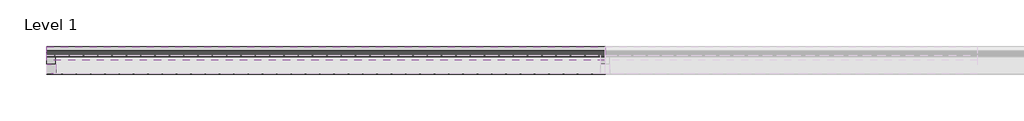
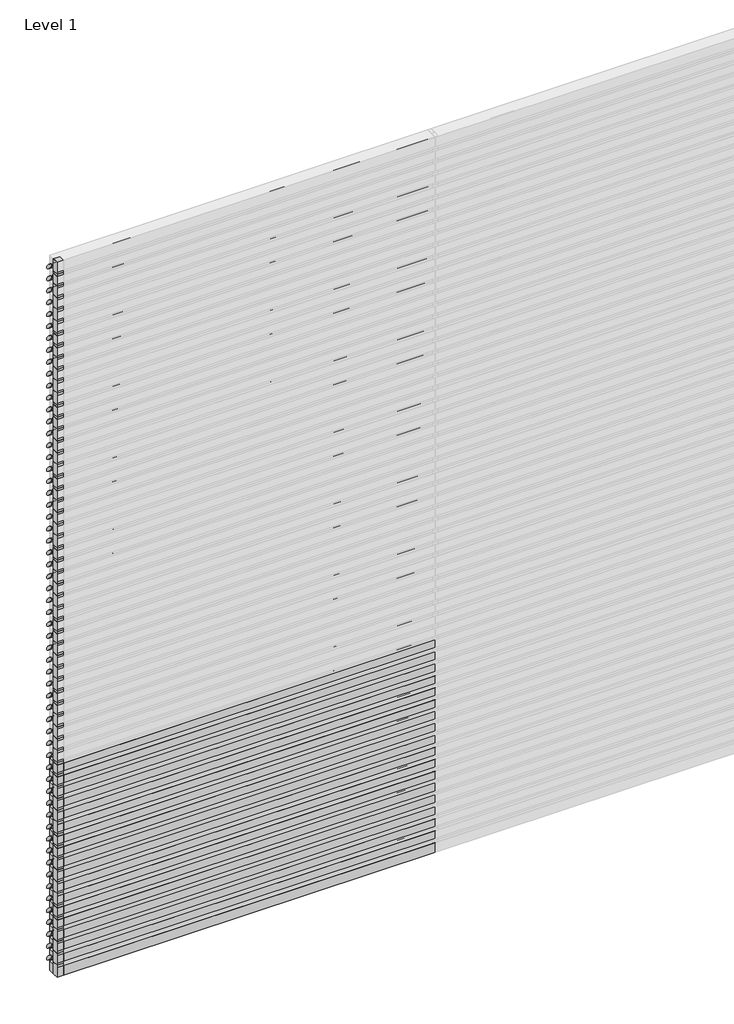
# One storey, part 1 of 4: 119 members, 18 plates.
"""IFC4 building model written with IfcOpenShell, lengths in millimetres."""

from ifc_helpers import new_model, si_unit, origin, place, context, project, spatial, transform, mapped, element, save
from components import rectangular_mullion_c274bac7, rectangular_mullion_cddbc660, empty_system_panel_empty_03c9d606, empty_system_panel_empty_9aeebe66

model = new_model("IFC4")

# Units and contexts
model_context = context("Model", 3, world=origin())
ifc_project = project(units=[si_unit("LENGTHUNIT", "METRE", prefix="MILLI")], contexts=[model_context])

# Site, building, storey
site = spatial("IfcSite", under=ifc_project)
building = spatial("IfcBuilding", under=site)
storey = spatial("IfcBuildingStorey", under=building, Name="Level 1", Elevation=0.0)

# Members
placement = place(None, origin())
rectangular_mullion_shape = rectangular_mullion_c274bac7(model_context)
element("IfcMember", 1, ObjectType="Rectangular Mullion : RSen_21_CWM_blade - 100 ellips - 45°_gen_duco projects", at=placement, inside=storey, context=model_context, shape_type="MappedRepresentation", body=[
    mapped(rectangular_mullion_shape, transform((0.0, 3000.0, 100.0), x_axis=(0.0, 0.0, 1.0), y_axis=(0.0, 1.0, 0.0), z_axis=(-1.0, 0.0, 0.0))),
])
element("IfcMember", 2, ObjectType="Rectangular Mullion : RSen_21_CWM_blade - 100 ellips - 45°_gen_duco projects", at=placement, inside=storey, context=model_context, shape_type="MappedRepresentation", body=[
    mapped(rectangular_mullion_shape, transform((0.0, 3000.0, 200.0), x_axis=(0.0, 0.0, 1.0), y_axis=(0.0, 1.0, 0.0), z_axis=(-1.0, 0.0, 0.0))),
])
element("IfcMember", 3, ObjectType="Rectangular Mullion : RSen_21_CWM_blade - 100 ellips - 45°_gen_duco projects", at=placement, inside=storey, context=model_context, shape_type="MappedRepresentation", body=[
    mapped(rectangular_mullion_shape, transform((0.0, 3000.0, 300.0), x_axis=(0.0, 0.0, 1.0), y_axis=(0.0, 1.0, 0.0), z_axis=(-1.0, 0.0, 0.0))),
])
element("IfcMember", 4, ObjectType="Rectangular Mullion : RSen_21_CWM_blade - 100 ellips - 45°_gen_duco projects", at=placement, inside=storey, context=model_context, shape_type="MappedRepresentation", body=[
    mapped(rectangular_mullion_shape, transform((0.0, 3000.0, 400.0), x_axis=(0.0, 0.0, 1.0), y_axis=(0.0, 1.0, 0.0), z_axis=(-1.0, 0.0, 0.0))),
])
element("IfcMember", 5, ObjectType="Rectangular Mullion : RSen_21_CWM_blade - 100 ellips - 45°_gen_duco projects", at=placement, inside=storey, context=model_context, shape_type="MappedRepresentation", body=[
    mapped(rectangular_mullion_shape, transform((0.0, 3000.0, 500.0), x_axis=(0.0, 0.0, 1.0), y_axis=(0.0, 1.0, 0.0), z_axis=(-1.0, 0.0, 0.0))),
])
element("IfcMember", 6, ObjectType="Rectangular Mullion : RSen_21_CWM_blade - 100 ellips - 45°_gen_duco projects", at=placement, inside=storey, context=model_context, shape_type="MappedRepresentation", body=[
    mapped(rectangular_mullion_shape, transform((0.0, 3000.0, 600.0), x_axis=(0.0, 0.0, 1.0), y_axis=(0.0, 1.0, 0.0), z_axis=(-1.0, 0.0, 0.0))),
])
element("IfcMember", 7, ObjectType="Rectangular Mullion : RSen_21_CWM_blade - 100 ellips - 45°_gen_duco projects", at=placement, inside=storey, context=model_context, shape_type="MappedRepresentation", body=[
    mapped(rectangular_mullion_shape, transform((0.0, 3000.0, 700.0), x_axis=(0.0, 0.0, 1.0), y_axis=(0.0, 1.0, 0.0), z_axis=(-1.0, 0.0, 0.0))),
])
element("IfcMember", 8, ObjectType="Rectangular Mullion : RSen_21_CWM_blade - 100 ellips - 45°_gen_duco projects", at=placement, inside=storey, context=model_context, shape_type="MappedRepresentation", body=[
    mapped(rectangular_mullion_shape, transform((0.0, 3000.0, 800.0), x_axis=(0.0, 0.0, 1.0), y_axis=(0.0, 1.0, 0.0), z_axis=(-1.0, 0.0, 0.0))),
])
element("IfcMember", 9, ObjectType="Rectangular Mullion : RSen_21_CWM_blade - 100 ellips - 45°_gen_duco projects", at=placement, inside=storey, context=model_context, shape_type="MappedRepresentation", body=[
    mapped(rectangular_mullion_shape, transform((0.0, 3000.0, 900.0), x_axis=(0.0, 0.0, 1.0), y_axis=(0.0, 1.0, 0.0), z_axis=(-1.0, 0.0, 0.0))),
])
element("IfcMember", 10, ObjectType="Rectangular Mullion : RSen_21_CWM_blade - 100 ellips - 45°_gen_duco projects", at=placement, inside=storey, context=model_context, shape_type="MappedRepresentation", body=[
    mapped(rectangular_mullion_shape, transform((0.0, 3000.0, 1000.0), x_axis=(0.0, 0.0, 1.0), y_axis=(0.0, 1.0, 0.0), z_axis=(-1.0, 0.0, 0.0))),
])
element("IfcMember", 11, ObjectType="Rectangular Mullion : RSen_21_CWM_blade - 100 ellips - 45°_gen_duco projects", at=placement, inside=storey, context=model_context, shape_type="MappedRepresentation", body=[
    mapped(rectangular_mullion_shape, transform((0.0, 3000.0, 1100.0), x_axis=(0.0, 0.0, 1.0), y_axis=(0.0, 1.0, 0.0), z_axis=(-1.0, 0.0, 0.0))),
])
element("IfcMember", 12, ObjectType="Rectangular Mullion : RSen_21_CWM_blade - 100 ellips - 45°_gen_duco projects", at=placement, inside=storey, context=model_context, shape_type="MappedRepresentation", body=[
    mapped(rectangular_mullion_shape, transform((0.0, 3000.0, 1200.0), x_axis=(0.0, 0.0, 1.0), y_axis=(0.0, 1.0, 0.0), z_axis=(-1.0, 0.0, 0.0))),
])
element("IfcMember", 13, ObjectType="Rectangular Mullion : RSen_21_CWM_blade - 100 ellips - 45°_gen_duco projects", at=placement, inside=storey, context=model_context, shape_type="MappedRepresentation", body=[
    mapped(rectangular_mullion_shape, transform((0.0, 3000.0, 1300.0), x_axis=(0.0, 0.0, 1.0), y_axis=(0.0, 1.0, 0.0), z_axis=(-1.0, 0.0, 0.0))),
])
element("IfcMember", 14, ObjectType="Rectangular Mullion : RSen_21_CWM_blade - 100 ellips - 45°_gen_duco projects", at=placement, inside=storey, context=model_context, shape_type="MappedRepresentation", body=[
    mapped(rectangular_mullion_shape, transform((0.0, 3000.0, 1400.0), x_axis=(0.0, 0.0, 1.0), y_axis=(0.0, 1.0, 0.0), z_axis=(-1.0, 0.0, 0.0))),
])
element("IfcMember", 15, ObjectType="Rectangular Mullion : RSen_21_CWM_blade - 100 ellips - 45°_gen_duco projects", at=placement, inside=storey, context=model_context, shape_type="MappedRepresentation", body=[
    mapped(rectangular_mullion_shape, transform((0.0, 3000.0, 1500.0), x_axis=(0.0, 0.0, 1.0), y_axis=(0.0, 1.0, 0.0), z_axis=(-1.0, 0.0, 0.0))),
])
element("IfcMember", 16, ObjectType="Rectangular Mullion : RSen_21_CWM_blade - 100 ellips - 45°_gen_duco projects", at=placement, inside=storey, context=model_context, shape_type="MappedRepresentation", body=[
    mapped(rectangular_mullion_shape, transform((0.0, 3000.0, 1600.0), x_axis=(0.0, 0.0, 1.0), y_axis=(0.0, 1.0, 0.0), z_axis=(-1.0, 0.0, 0.0))),
])
element("IfcMember", 17, ObjectType="Rectangular Mullion : RSen_21_CWM_blade - 100 ellips - 45°_gen_duco projects", at=placement, inside=storey, context=model_context, shape_type="MappedRepresentation", body=[
    mapped(rectangular_mullion_shape, transform((0.0, 3000.0, 1700.0), x_axis=(0.0, 0.0, 1.0), y_axis=(0.0, 1.0, 0.0), z_axis=(-1.0, 0.0, 0.0))),
])
element("IfcMember", 18, ObjectType="Rectangular Mullion : RSen_21_CWM_blade - 100 ellips - 45°_gen_duco projects", at=placement, inside=storey, context=model_context, shape_type="MappedRepresentation", body=[
    mapped(rectangular_mullion_shape, transform((0.0, 3000.0, 1800.0), x_axis=(0.0, 0.0, 1.0), y_axis=(0.0, 1.0, 0.0), z_axis=(-1.0, 0.0, 0.0))),
])
element("IfcMember", 19, ObjectType="Rectangular Mullion : RSen_21_CWM_blade - 100 ellips - 45°_gen_duco projects", at=placement, inside=storey, context=model_context, shape_type="MappedRepresentation", body=[
    mapped(rectangular_mullion_shape, transform((0.0, 3000.0, 1900.0), x_axis=(0.0, 0.0, 1.0), y_axis=(0.0, 1.0, 0.0), z_axis=(-1.0, 0.0, 0.0))),
])
element("IfcMember", 20, ObjectType="Rectangular Mullion : RSen_21_CWM_blade - 100 ellips - 45°_gen_duco projects", at=placement, inside=storey, context=model_context, shape_type="MappedRepresentation", body=[
    mapped(rectangular_mullion_shape, transform((0.0, 3000.0, 2000.0), x_axis=(0.0, 0.0, 1.0), y_axis=(0.0, 1.0, 0.0), z_axis=(-1.0, 0.0, 0.0))),
])
element("IfcMember", 21, ObjectType="Rectangular Mullion : RSen_21_CWM_blade - 100 ellips - 45°_gen_duco projects", at=placement, inside=storey, context=model_context, shape_type="MappedRepresentation", body=[
    mapped(rectangular_mullion_shape, transform((0.0, 3000.0, 2100.0), x_axis=(0.0, 0.0, 1.0), y_axis=(0.0, 1.0, 0.0), z_axis=(-1.0, 0.0, 0.0))),
])
element("IfcMember", 22, ObjectType="Rectangular Mullion : RSen_21_CWM_blade - 100 ellips - 45°_gen_duco projects", at=placement, inside=storey, context=model_context, shape_type="MappedRepresentation", body=[
    mapped(rectangular_mullion_shape, transform((0.0, 3000.0, 2200.0), x_axis=(0.0, 0.0, 1.0), y_axis=(0.0, 1.0, 0.0), z_axis=(-1.0, 0.0, 0.0))),
])
element("IfcMember", 23, ObjectType="Rectangular Mullion : RSen_21_CWM_blade - 100 ellips - 45°_gen_duco projects", at=placement, inside=storey, context=model_context, shape_type="MappedRepresentation", body=[
    mapped(rectangular_mullion_shape, transform((0.0, 3000.0, 2300.0), x_axis=(0.0, 0.0, 1.0), y_axis=(0.0, 1.0, 0.0), z_axis=(-1.0, 0.0, 0.0))),
])
element("IfcMember", 24, ObjectType="Rectangular Mullion : RSen_21_CWM_blade - 100 ellips - 45°_gen_duco projects", at=placement, inside=storey, context=model_context, shape_type="MappedRepresentation", body=[
    mapped(rectangular_mullion_shape, transform((0.0, 3000.0, 2400.0), x_axis=(0.0, 0.0, 1.0), y_axis=(0.0, 1.0, 0.0), z_axis=(-1.0, 0.0, 0.0))),
])
element("IfcMember", 25, ObjectType="Rectangular Mullion : RSen_21_CWM_blade - 100 ellips - 45°_gen_duco projects", at=placement, inside=storey, context=model_context, shape_type="MappedRepresentation", body=[
    mapped(rectangular_mullion_shape, transform((0.0, 3000.0, 2500.0), x_axis=(0.0, 0.0, 1.0), y_axis=(0.0, 1.0, 0.0), z_axis=(-1.0, 0.0, 0.0))),
])
element("IfcMember", 26, ObjectType="Rectangular Mullion : RSen_21_CWM_blade - 100 ellips - 45°_gen_duco projects", at=placement, inside=storey, context=model_context, shape_type="MappedRepresentation", body=[
    mapped(rectangular_mullion_shape, transform((0.0, 3000.0, 2600.0), x_axis=(0.0, 0.0, 1.0), y_axis=(0.0, 1.0, 0.0), z_axis=(-1.0, 0.0, 0.0))),
])
element("IfcMember", 27, ObjectType="Rectangular Mullion : RSen_21_CWM_blade - 100 ellips - 45°_gen_duco projects", at=placement, inside=storey, context=model_context, shape_type="MappedRepresentation", body=[
    mapped(rectangular_mullion_shape, transform((0.0, 3000.0, 2700.0), x_axis=(0.0, 0.0, 1.0), y_axis=(0.0, 1.0, 0.0), z_axis=(-1.0, 0.0, 0.0))),
])
element("IfcMember", 28, ObjectType="Rectangular Mullion : RSen_21_CWM_blade - 100 ellips - 45°_gen_duco projects", at=placement, inside=storey, context=model_context, shape_type="MappedRepresentation", body=[
    mapped(rectangular_mullion_shape, transform((0.0, 3000.0, 2800.0), x_axis=(0.0, 0.0, 1.0), y_axis=(0.0, 1.0, 0.0), z_axis=(-1.0, 0.0, 0.0))),
])
element("IfcMember", 29, ObjectType="Rectangular Mullion : RSen_21_CWM_blade - 100 ellips - 45°_gen_duco projects", at=placement, inside=storey, context=model_context, shape_type="MappedRepresentation", body=[
    mapped(rectangular_mullion_shape, transform((0.0, 3000.0, 2900.0), x_axis=(0.0, 0.0, 1.0), y_axis=(0.0, 1.0, 0.0), z_axis=(-1.0, 0.0, 0.0))),
])
element("IfcMember", 30, ObjectType="Rectangular Mullion : RSen_21_CWM_blade - 100 ellips - 45°_gen_duco projects", at=placement, inside=storey, context=model_context, shape_type="MappedRepresentation", body=[
    mapped(rectangular_mullion_shape, transform((0.0, 3000.0, 3000.0), x_axis=(0.0, 0.0, 1.0), y_axis=(0.0, 1.0, 0.0), z_axis=(-1.0, 0.0, 0.0))),
])
element("IfcMember", 31, ObjectType="Rectangular Mullion : RSen_21_CWM_blade - 100 ellips - 45°_gen_duco projects", at=placement, inside=storey, context=model_context, shape_type="MappedRepresentation", body=[
    mapped(rectangular_mullion_shape, transform((0.0, 3000.0, 3100.0), x_axis=(0.0, 0.0, 1.0), y_axis=(0.0, 1.0, 0.0), z_axis=(-1.0, 0.0, 0.0))),
])
element("IfcMember", 32, ObjectType="Rectangular Mullion : RSen_21_CWM_blade - 100 ellips - 45°_gen_duco projects", at=placement, inside=storey, context=model_context, shape_type="MappedRepresentation", body=[
    mapped(rectangular_mullion_shape, transform((0.0, 3000.0, 3200.0), x_axis=(0.0, 0.0, 1.0), y_axis=(0.0, 1.0, 0.0), z_axis=(-1.0, 0.0, 0.0))),
])
element("IfcMember", 33, ObjectType="Rectangular Mullion : RSen_21_CWM_blade - 100 ellips - 45°_gen_duco projects", at=placement, inside=storey, context=model_context, shape_type="MappedRepresentation", body=[
    mapped(rectangular_mullion_shape, transform((0.0, 3000.0, 3300.0), x_axis=(0.0, 0.0, 1.0), y_axis=(0.0, 1.0, 0.0), z_axis=(-1.0, 0.0, 0.0))),
])
element("IfcMember", 34, ObjectType="Rectangular Mullion : RSen_21_CWM_blade - 100 ellips - 45°_gen_duco projects", at=placement, inside=storey, context=model_context, shape_type="MappedRepresentation", body=[
    mapped(rectangular_mullion_shape, transform((0.0, 3000.0, 3400.0), x_axis=(0.0, 0.0, 1.0), y_axis=(0.0, 1.0, 0.0), z_axis=(-1.0, 0.0, 0.0))),
])
element("IfcMember", 35, ObjectType="Rectangular Mullion : RSen_21_CWM_blade - 100 ellips - 45°_gen_duco projects", at=placement, inside=storey, context=model_context, shape_type="MappedRepresentation", body=[
    mapped(rectangular_mullion_shape, transform((0.0, 3000.0, 3500.0), x_axis=(0.0, 0.0, 1.0), y_axis=(0.0, 1.0, 0.0), z_axis=(-1.0, 0.0, 0.0))),
])
element("IfcMember", 36, ObjectType="Rectangular Mullion : RSen_21_CWM_blade - 100 ellips - 45°_gen_duco projects", at=placement, inside=storey, context=model_context, shape_type="MappedRepresentation", body=[
    mapped(rectangular_mullion_shape, transform((0.0, 3000.0, 3600.0), x_axis=(0.0, 0.0, 1.0), y_axis=(0.0, 1.0, 0.0), z_axis=(-1.0, 0.0, 0.0))),
])
element("IfcMember", 37, ObjectType="Rectangular Mullion : RSen_21_CWM_blade - 100 ellips - 45°_gen_duco projects", at=placement, inside=storey, context=model_context, shape_type="MappedRepresentation", body=[
    mapped(rectangular_mullion_shape, transform((0.0, 3000.0, 3700.0), x_axis=(0.0, 0.0, 1.0), y_axis=(0.0, 1.0, 0.0), z_axis=(-1.0, 0.0, 0.0))),
])
element("IfcMember", 38, ObjectType="Rectangular Mullion : RSen_21_CWM_blade - 100 ellips - 45°_gen_duco projects", at=placement, inside=storey, context=model_context, shape_type="MappedRepresentation", body=[
    mapped(rectangular_mullion_shape, transform((0.0, 3000.0, 3800.0), x_axis=(0.0, 0.0, 1.0), y_axis=(0.0, 1.0, 0.0), z_axis=(-1.0, 0.0, 0.0))),
])
element("IfcMember", 39, ObjectType="Rectangular Mullion : RSen_21_CWM_blade - 100 ellips - 45°_gen_duco projects", at=placement, inside=storey, context=model_context, shape_type="MappedRepresentation", body=[
    mapped(rectangular_mullion_shape, transform((0.0, 3000.0, 3900.0), x_axis=(0.0, 0.0, 1.0), y_axis=(0.0, 1.0, 0.0), z_axis=(-1.0, 0.0, 0.0))),
])
element("IfcMember", 40, ObjectType="Rectangular Mullion : RSen_21_CWM_blade - 100 ellips - 45°_gen_duco projects", at=placement, inside=storey, context=model_context, shape_type="MappedRepresentation", body=[
    mapped(rectangular_mullion_shape, transform((0.0, 3000.0, 4000.0), x_axis=(0.0, 0.0, 1.0), y_axis=(0.0, 1.0, 0.0), z_axis=(-1.0, 0.0, 0.0))),
])
element("IfcMember", 41, ObjectType="Rectangular Mullion : RSen_21_CWM_blade - 100 ellips - 45°_gen_duco projects", at=placement, inside=storey, context=model_context, shape_type="MappedRepresentation", body=[
    mapped(rectangular_mullion_shape, transform((0.0, 3000.0, 4100.0), x_axis=(0.0, 0.0, 1.0), y_axis=(0.0, 1.0, 0.0), z_axis=(-1.0, 0.0, 0.0))),
])
element("IfcMember", 42, ObjectType="Rectangular Mullion : RSen_21_CWM_blade - 100 ellips - 45°_gen_duco projects", at=placement, inside=storey, context=model_context, shape_type="MappedRepresentation", body=[
    mapped(rectangular_mullion_shape, transform((0.0, 3000.0, 4200.0), x_axis=(0.0, 0.0, 1.0), y_axis=(0.0, 1.0, 0.0), z_axis=(-1.0, 0.0, 0.0))),
])
element("IfcMember", 43, ObjectType="Rectangular Mullion : RSen_21_CWM_blade - 100 ellips - 45°_gen_duco projects", at=placement, inside=storey, context=model_context, shape_type="MappedRepresentation", body=[
    mapped(rectangular_mullion_shape, transform((0.0, 3000.0, 4300.0), x_axis=(0.0, 0.0, 1.0), y_axis=(0.0, 1.0, 0.0), z_axis=(-1.0, 0.0, 0.0))),
])
element("IfcMember", 44, ObjectType="Rectangular Mullion : RSen_21_CWM_blade - 100 ellips - 45°_gen_duco projects", at=placement, inside=storey, context=model_context, shape_type="MappedRepresentation", body=[
    mapped(rectangular_mullion_shape, transform((0.0, 3000.0, 4400.0), x_axis=(0.0, 0.0, 1.0), y_axis=(0.0, 1.0, 0.0), z_axis=(-1.0, 0.0, 0.0))),
])
element("IfcMember", 45, ObjectType="Rectangular Mullion : RSen_21_CWM_blade - 100 ellips - 45°_gen_duco projects", at=placement, inside=storey, context=model_context, shape_type="MappedRepresentation", body=[
    mapped(rectangular_mullion_shape, transform((0.0, 3000.0, 4500.0), x_axis=(0.0, 0.0, 1.0), y_axis=(0.0, 1.0, 0.0), z_axis=(-1.0, 0.0, 0.0))),
])
element("IfcMember", 46, ObjectType="Rectangular Mullion : RSen_21_CWM_blade - 100 ellips - 45°_gen_duco projects", at=placement, inside=storey, context=model_context, shape_type="MappedRepresentation", body=[
    mapped(rectangular_mullion_shape, transform((0.0, 3000.0, 4600.0), x_axis=(0.0, 0.0, 1.0), y_axis=(0.0, 1.0, 0.0), z_axis=(-1.0, 0.0, 0.0))),
])
element("IfcMember", 47, ObjectType="Rectangular Mullion : RSen_21_CWM_blade - 100 ellips - 45°_gen_duco projects", at=placement, inside=storey, context=model_context, shape_type="MappedRepresentation", body=[
    mapped(rectangular_mullion_shape, transform((0.0, 3000.0, 4700.0), x_axis=(0.0, 0.0, 1.0), y_axis=(0.0, 1.0, 0.0), z_axis=(-1.0, 0.0, 0.0))),
])
element("IfcMember", 48, ObjectType="Rectangular Mullion : RSen_21_CWM_blade - 100 ellips - 45°_gen_duco projects", at=placement, inside=storey, context=model_context, shape_type="MappedRepresentation", body=[
    mapped(rectangular_mullion_shape, transform((0.0, 3000.0, 4800.0), x_axis=(0.0, 0.0, 1.0), y_axis=(0.0, 1.0, 0.0), z_axis=(-1.0, 0.0, 0.0))),
])
element("IfcMember", 49, ObjectType="Rectangular Mullion : RSen_21_CWM_blade - 100 ellips - 45°_gen_duco projects", at=placement, inside=storey, context=model_context, shape_type="MappedRepresentation", body=[
    mapped(rectangular_mullion_shape, transform((0.0, 3000.0, 4900.0), x_axis=(0.0, 0.0, 1.0), y_axis=(0.0, 1.0, 0.0), z_axis=(-1.0, 0.0, 0.0))),
])
element("IfcMember", 50, ObjectType="Rectangular Mullion : RSen_21_CWM_blade - 100 ellips - 45°_gen_duco projects", at=placement, inside=storey, context=model_context, shape_type="MappedRepresentation", body=[
    mapped(rectangular_mullion_shape, transform((0.0, 3000.0, 5000.0), x_axis=(0.0, 0.0, 1.0), y_axis=(0.0, 1.0, 0.0), z_axis=(-1.0, 0.0, 0.0))),
])
element("IfcMember", 51, ObjectType="Rectangular Mullion : RSen_21_CWM_blade - 100 ellips - 45°_gen_duco projects", at=placement, inside=storey, context=model_context, shape_type="MappedRepresentation", body=[
    mapped(rectangular_mullion_shape, transform((0.0, 3000.0, 5100.0), x_axis=(0.0, 0.0, 1.0), y_axis=(0.0, 1.0, 0.0), z_axis=(-1.0, 0.0, 0.0))),
])
element("IfcMember", 52, ObjectType="Rectangular Mullion : RSen_21_CWM_blade - 100 ellips - 45°_gen_duco projects", at=placement, inside=storey, context=model_context, shape_type="MappedRepresentation", body=[
    mapped(rectangular_mullion_shape, transform((0.0, 3000.0, 5200.0), x_axis=(0.0, 0.0, 1.0), y_axis=(0.0, 1.0, 0.0), z_axis=(-1.0, 0.0, 0.0))),
])
element("IfcMember", 53, ObjectType="Rectangular Mullion : RSen_21_CWM_blade - 100 ellips - 45°_gen_duco projects", at=placement, inside=storey, context=model_context, shape_type="MappedRepresentation", body=[
    mapped(rectangular_mullion_shape, transform((0.0, 3000.0, 5300.0), x_axis=(0.0, 0.0, 1.0), y_axis=(0.0, 1.0, 0.0), z_axis=(-1.0, 0.0, 0.0))),
])
element("IfcMember", 54, ObjectType="Rectangular Mullion : RSen_21_CWM_blade - 100 ellips - 45°_gen_duco projects", at=placement, inside=storey, context=model_context, shape_type="MappedRepresentation", body=[
    mapped(rectangular_mullion_shape, transform((0.0, 3000.0, 5400.0), x_axis=(0.0, 0.0, 1.0), y_axis=(0.0, 1.0, 0.0), z_axis=(-1.0, 0.0, 0.0))),
])
element("IfcMember", 55, ObjectType="Rectangular Mullion : RSen_21_CWM_blade - 100 ellips - 45°_gen_duco projects", at=placement, inside=storey, context=model_context, shape_type="MappedRepresentation", body=[
    mapped(rectangular_mullion_shape, transform((0.0, 3000.0, 5500.0), x_axis=(0.0, 0.0, 1.0), y_axis=(0.0, 1.0, 0.0), z_axis=(-1.0, 0.0, 0.0))),
])
element("IfcMember", 56, ObjectType="Rectangular Mullion : RSen_21_CWM_blade - 100 ellips - 45°_gen_duco projects", at=placement, inside=storey, context=model_context, shape_type="MappedRepresentation", body=[
    mapped(rectangular_mullion_shape, transform((0.0, 3000.0, 5600.0), x_axis=(0.0, 0.0, 1.0), y_axis=(0.0, 1.0, 0.0), z_axis=(-1.0, 0.0, 0.0))),
])
element("IfcMember", 57, ObjectType="Rectangular Mullion : RSen_21_CWM_blade - 100 ellips - 45°_gen_duco projects", at=placement, inside=storey, context=model_context, shape_type="MappedRepresentation", body=[
    mapped(rectangular_mullion_shape, transform((0.0, 3000.0, 5700.0), x_axis=(0.0, 0.0, 1.0), y_axis=(0.0, 1.0, 0.0), z_axis=(-1.0, 0.0, 0.0))),
])
element("IfcMember", 58, ObjectType="Rectangular Mullion : RSen_21_CWM_blade - 100 ellips - 45°_gen_duco projects", at=placement, inside=storey, context=model_context, shape_type="MappedRepresentation", body=[
    mapped(rectangular_mullion_shape, transform((0.0, 3000.0, 5800.0), x_axis=(0.0, 0.0, 1.0), y_axis=(0.0, 1.0, 0.0), z_axis=(-1.0, 0.0, 0.0))),
])
element("IfcMember", 59, ObjectType="Rectangular Mullion : RSen_21_CWM_blade - 100 ellips - 45°_gen_duco projects", at=placement, inside=storey, context=model_context, shape_type="MappedRepresentation", body=[
    mapped(rectangular_mullion_shape, transform((0.0, 3000.0, 5900.0), x_axis=(0.0, 0.0, 1.0), y_axis=(0.0, 1.0, 0.0), z_axis=(-1.0, 0.0, 0.0))),
])
rectangular_mullion_2_shape = rectangular_mullion_cddbc660(model_context)
element("IfcMember", 60, ObjectType="Rectangular Mullion : RSen_21_CWM_support profile 50x50 - left_gen_duco projects", at=placement, inside=storey, context=model_context, shape_type="MappedRepresentation", body=[
    mapped(rectangular_mullion_2_shape, transform((0.0, 3000.0, 0.0), x_axis=(-1.0, 0.0, 0.0), y_axis=(0.0, 1.0, 0.0), z_axis=(0.0, 0.0, -1.0))),
])
element("IfcMember", 61, ObjectType="Rectangular Mullion : RSen_21_CWM_support profile 50x50 - left_gen_duco projects", at=placement, inside=storey, context=model_context, shape_type="MappedRepresentation", body=[
    mapped(rectangular_mullion_2_shape, transform((0.0, 3000.0, 100.0), x_axis=(-1.0, 0.0, 0.0), y_axis=(0.0, 1.0, 0.0), z_axis=(0.0, 0.0, -1.0))),
])
element("IfcMember", 62, ObjectType="Rectangular Mullion : RSen_21_CWM_support profile 50x50 - left_gen_duco projects", at=placement, inside=storey, context=model_context, shape_type="MappedRepresentation", body=[
    mapped(rectangular_mullion_2_shape, transform((0.0, 3000.0, 200.0), x_axis=(-1.0, 0.0, 0.0), y_axis=(0.0, 1.0, 0.0), z_axis=(0.0, 0.0, -1.0))),
])
element("IfcMember", 63, ObjectType="Rectangular Mullion : RSen_21_CWM_support profile 50x50 - left_gen_duco projects", at=placement, inside=storey, context=model_context, shape_type="MappedRepresentation", body=[
    mapped(rectangular_mullion_2_shape, transform((0.0, 3000.0, 300.0), x_axis=(-1.0, 0.0, 0.0), y_axis=(0.0, 1.0, 0.0), z_axis=(0.0, 0.0, -1.0))),
])
element("IfcMember", 64, ObjectType="Rectangular Mullion : RSen_21_CWM_support profile 50x50 - left_gen_duco projects", at=placement, inside=storey, context=model_context, shape_type="MappedRepresentation", body=[
    mapped(rectangular_mullion_2_shape, transform((0.0, 3000.0, 400.0), x_axis=(-1.0, 0.0, 0.0), y_axis=(0.0, 1.0, 0.0), z_axis=(0.0, 0.0, -1.0))),
])
element("IfcMember", 65, ObjectType="Rectangular Mullion : RSen_21_CWM_support profile 50x50 - left_gen_duco projects", at=placement, inside=storey, context=model_context, shape_type="MappedRepresentation", body=[
    mapped(rectangular_mullion_2_shape, transform((0.0, 3000.0, 500.0), x_axis=(-1.0, 0.0, 0.0), y_axis=(0.0, 1.0, 0.0), z_axis=(0.0, 0.0, -1.0))),
])
element("IfcMember", 66, ObjectType="Rectangular Mullion : RSen_21_CWM_support profile 50x50 - left_gen_duco projects", at=placement, inside=storey, context=model_context, shape_type="MappedRepresentation", body=[
    mapped(rectangular_mullion_2_shape, transform((0.0, 3000.0, 600.0), x_axis=(-1.0, 0.0, 0.0), y_axis=(0.0, 1.0, 0.0), z_axis=(0.0, 0.0, -1.0))),
])
element("IfcMember", 67, ObjectType="Rectangular Mullion : RSen_21_CWM_support profile 50x50 - left_gen_duco projects", at=placement, inside=storey, context=model_context, shape_type="MappedRepresentation", body=[
    mapped(rectangular_mullion_2_shape, transform((0.0, 3000.0, 700.0), x_axis=(-1.0, 0.0, 0.0), y_axis=(0.0, 1.0, 0.0), z_axis=(0.0, 0.0, -1.0))),
])
element("IfcMember", 68, ObjectType="Rectangular Mullion : RSen_21_CWM_support profile 50x50 - left_gen_duco projects", at=placement, inside=storey, context=model_context, shape_type="MappedRepresentation", body=[
    mapped(rectangular_mullion_2_shape, transform((0.0, 3000.0, 800.0), x_axis=(-1.0, 0.0, 0.0), y_axis=(0.0, 1.0, 0.0), z_axis=(0.0, 0.0, -1.0))),
])
element("IfcMember", 69, ObjectType="Rectangular Mullion : RSen_21_CWM_support profile 50x50 - left_gen_duco projects", at=placement, inside=storey, context=model_context, shape_type="MappedRepresentation", body=[
    mapped(rectangular_mullion_2_shape, transform((0.0, 3000.0, 900.0), x_axis=(-1.0, 0.0, 0.0), y_axis=(0.0, 1.0, 0.0), z_axis=(0.0, 0.0, -1.0))),
])
element("IfcMember", 70, ObjectType="Rectangular Mullion : RSen_21_CWM_support profile 50x50 - left_gen_duco projects", at=placement, inside=storey, context=model_context, shape_type="MappedRepresentation", body=[
    mapped(rectangular_mullion_2_shape, transform((0.0, 3000.0, 1000.0), x_axis=(-1.0, 0.0, 0.0), y_axis=(0.0, 1.0, 0.0), z_axis=(0.0, 0.0, -1.0))),
])
element("IfcMember", 71, ObjectType="Rectangular Mullion : RSen_21_CWM_support profile 50x50 - left_gen_duco projects", at=placement, inside=storey, context=model_context, shape_type="MappedRepresentation", body=[
    mapped(rectangular_mullion_2_shape, transform((0.0, 3000.0, 1100.0), x_axis=(-1.0, 0.0, 0.0), y_axis=(0.0, 1.0, 0.0), z_axis=(0.0, 0.0, -1.0))),
])
element("IfcMember", 72, ObjectType="Rectangular Mullion : RSen_21_CWM_support profile 50x50 - left_gen_duco projects", at=placement, inside=storey, context=model_context, shape_type="MappedRepresentation", body=[
    mapped(rectangular_mullion_2_shape, transform((0.0, 3000.0, 1200.0), x_axis=(-1.0, 0.0, 0.0), y_axis=(0.0, 1.0, 0.0), z_axis=(0.0, 0.0, -1.0))),
])
element("IfcMember", 73, ObjectType="Rectangular Mullion : RSen_21_CWM_support profile 50x50 - left_gen_duco projects", at=placement, inside=storey, context=model_context, shape_type="MappedRepresentation", body=[
    mapped(rectangular_mullion_2_shape, transform((0.0, 3000.0, 1300.0), x_axis=(-1.0, 0.0, 0.0), y_axis=(0.0, 1.0, 0.0), z_axis=(0.0, 0.0, -1.0))),
])
element("IfcMember", 74, ObjectType="Rectangular Mullion : RSen_21_CWM_support profile 50x50 - left_gen_duco projects", at=placement, inside=storey, context=model_context, shape_type="MappedRepresentation", body=[
    mapped(rectangular_mullion_2_shape, transform((0.0, 3000.0, 1400.0), x_axis=(-1.0, 0.0, 0.0), y_axis=(0.0, 1.0, 0.0), z_axis=(0.0, 0.0, -1.0))),
])
element("IfcMember", 75, ObjectType="Rectangular Mullion : RSen_21_CWM_support profile 50x50 - left_gen_duco projects", at=placement, inside=storey, context=model_context, shape_type="MappedRepresentation", body=[
    mapped(rectangular_mullion_2_shape, transform((0.0, 3000.0, 1500.0), x_axis=(-1.0, 0.0, 0.0), y_axis=(0.0, 1.0, 0.0), z_axis=(0.0, 0.0, -1.0))),
])
element("IfcMember", 76, ObjectType="Rectangular Mullion : RSen_21_CWM_support profile 50x50 - left_gen_duco projects", at=placement, inside=storey, context=model_context, shape_type="MappedRepresentation", body=[
    mapped(rectangular_mullion_2_shape, transform((0.0, 3000.0, 1600.0), x_axis=(-1.0, 0.0, 0.0), y_axis=(0.0, 1.0, 0.0), z_axis=(0.0, 0.0, -1.0))),
])
element("IfcMember", 77, ObjectType="Rectangular Mullion : RSen_21_CWM_support profile 50x50 - left_gen_duco projects", at=placement, inside=storey, context=model_context, shape_type="MappedRepresentation", body=[
    mapped(rectangular_mullion_2_shape, transform((0.0, 3000.0, 1700.0), x_axis=(-1.0, 0.0, 0.0), y_axis=(0.0, 1.0, 0.0), z_axis=(0.0, 0.0, -1.0))),
])
element("IfcMember", 78, ObjectType="Rectangular Mullion : RSen_21_CWM_support profile 50x50 - left_gen_duco projects", at=placement, inside=storey, context=model_context, shape_type="MappedRepresentation", body=[
    mapped(rectangular_mullion_2_shape, transform((0.0, 3000.0, 1800.0), x_axis=(-1.0, 0.0, 0.0), y_axis=(0.0, 1.0, 0.0), z_axis=(0.0, 0.0, -1.0))),
])
element("IfcMember", 79, ObjectType="Rectangular Mullion : RSen_21_CWM_support profile 50x50 - left_gen_duco projects", at=placement, inside=storey, context=model_context, shape_type="MappedRepresentation", body=[
    mapped(rectangular_mullion_2_shape, transform((0.0, 3000.0, 1900.0), x_axis=(-1.0, 0.0, 0.0), y_axis=(0.0, 1.0, 0.0), z_axis=(0.0, 0.0, -1.0))),
])
element("IfcMember", 80, ObjectType="Rectangular Mullion : RSen_21_CWM_support profile 50x50 - left_gen_duco projects", at=placement, inside=storey, context=model_context, shape_type="MappedRepresentation", body=[
    mapped(rectangular_mullion_2_shape, transform((0.0, 3000.0, 2000.0), x_axis=(-1.0, 0.0, 0.0), y_axis=(0.0, 1.0, 0.0), z_axis=(0.0, 0.0, -1.0))),
])
element("IfcMember", 81, ObjectType="Rectangular Mullion : RSen_21_CWM_support profile 50x50 - left_gen_duco projects", at=placement, inside=storey, context=model_context, shape_type="MappedRepresentation", body=[
    mapped(rectangular_mullion_2_shape, transform((0.0, 3000.0, 2100.0), x_axis=(-1.0, 0.0, 0.0), y_axis=(0.0, 1.0, 0.0), z_axis=(0.0, 0.0, -1.0))),
])
element("IfcMember", 82, ObjectType="Rectangular Mullion : RSen_21_CWM_support profile 50x50 - left_gen_duco projects", at=placement, inside=storey, context=model_context, shape_type="MappedRepresentation", body=[
    mapped(rectangular_mullion_2_shape, transform((0.0, 3000.0, 2200.0), x_axis=(-1.0, 0.0, 0.0), y_axis=(0.0, 1.0, 0.0), z_axis=(0.0, 0.0, -1.0))),
])
element("IfcMember", 83, ObjectType="Rectangular Mullion : RSen_21_CWM_support profile 50x50 - left_gen_duco projects", at=placement, inside=storey, context=model_context, shape_type="MappedRepresentation", body=[
    mapped(rectangular_mullion_2_shape, transform((0.0, 3000.0, 2300.0), x_axis=(-1.0, 0.0, 0.0), y_axis=(0.0, 1.0, 0.0), z_axis=(0.0, 0.0, -1.0))),
])
element("IfcMember", 84, ObjectType="Rectangular Mullion : RSen_21_CWM_support profile 50x50 - left_gen_duco projects", at=placement, inside=storey, context=model_context, shape_type="MappedRepresentation", body=[
    mapped(rectangular_mullion_2_shape, transform((0.0, 3000.0, 2400.0), x_axis=(-1.0, 0.0, 0.0), y_axis=(0.0, 1.0, 0.0), z_axis=(0.0, 0.0, -1.0))),
])
element("IfcMember", 85, ObjectType="Rectangular Mullion : RSen_21_CWM_support profile 50x50 - left_gen_duco projects", at=placement, inside=storey, context=model_context, shape_type="MappedRepresentation", body=[
    mapped(rectangular_mullion_2_shape, transform((0.0, 3000.0, 2500.0), x_axis=(-1.0, 0.0, 0.0), y_axis=(0.0, 1.0, 0.0), z_axis=(0.0, 0.0, -1.0))),
])
element("IfcMember", 86, ObjectType="Rectangular Mullion : RSen_21_CWM_support profile 50x50 - left_gen_duco projects", at=placement, inside=storey, context=model_context, shape_type="MappedRepresentation", body=[
    mapped(rectangular_mullion_2_shape, transform((0.0, 3000.0, 2600.0), x_axis=(-1.0, 0.0, 0.0), y_axis=(0.0, 1.0, 0.0), z_axis=(0.0, 0.0, -1.0))),
])
element("IfcMember", 87, ObjectType="Rectangular Mullion : RSen_21_CWM_support profile 50x50 - left_gen_duco projects", at=placement, inside=storey, context=model_context, shape_type="MappedRepresentation", body=[
    mapped(rectangular_mullion_2_shape, transform((0.0, 3000.0, 2700.0), x_axis=(-1.0, 0.0, 0.0), y_axis=(0.0, 1.0, 0.0), z_axis=(0.0, 0.0, -1.0))),
])
element("IfcMember", 88, ObjectType="Rectangular Mullion : RSen_21_CWM_support profile 50x50 - left_gen_duco projects", at=placement, inside=storey, context=model_context, shape_type="MappedRepresentation", body=[
    mapped(rectangular_mullion_2_shape, transform((0.0, 3000.0, 2800.0), x_axis=(-1.0, 0.0, 0.0), y_axis=(0.0, 1.0, 0.0), z_axis=(0.0, 0.0, -1.0))),
])
element("IfcMember", 89, ObjectType="Rectangular Mullion : RSen_21_CWM_support profile 50x50 - left_gen_duco projects", at=placement, inside=storey, context=model_context, shape_type="MappedRepresentation", body=[
    mapped(rectangular_mullion_2_shape, transform((0.0, 3000.0, 2900.0), x_axis=(-1.0, 0.0, 0.0), y_axis=(0.0, 1.0, 0.0), z_axis=(0.0, 0.0, -1.0))),
])
element("IfcMember", 90, ObjectType="Rectangular Mullion : RSen_21_CWM_support profile 50x50 - left_gen_duco projects", at=placement, inside=storey, context=model_context, shape_type="MappedRepresentation", body=[
    mapped(rectangular_mullion_2_shape, transform((0.0, 3000.0, 3000.0), x_axis=(-1.0, 0.0, 0.0), y_axis=(0.0, 1.0, 0.0), z_axis=(0.0, 0.0, -1.0))),
])
element("IfcMember", 91, ObjectType="Rectangular Mullion : RSen_21_CWM_support profile 50x50 - left_gen_duco projects", at=placement, inside=storey, context=model_context, shape_type="MappedRepresentation", body=[
    mapped(rectangular_mullion_2_shape, transform((0.0, 3000.0, 3100.0), x_axis=(-1.0, 0.0, 0.0), y_axis=(0.0, 1.0, 0.0), z_axis=(0.0, 0.0, -1.0))),
])
element("IfcMember", 92, ObjectType="Rectangular Mullion : RSen_21_CWM_support profile 50x50 - left_gen_duco projects", at=placement, inside=storey, context=model_context, shape_type="MappedRepresentation", body=[
    mapped(rectangular_mullion_2_shape, transform((0.0, 3000.0, 3200.0), x_axis=(-1.0, 0.0, 0.0), y_axis=(0.0, 1.0, 0.0), z_axis=(0.0, 0.0, -1.0))),
])
element("IfcMember", 93, ObjectType="Rectangular Mullion : RSen_21_CWM_support profile 50x50 - left_gen_duco projects", at=placement, inside=storey, context=model_context, shape_type="MappedRepresentation", body=[
    mapped(rectangular_mullion_2_shape, transform((0.0, 3000.0, 3300.0), x_axis=(-1.0, 0.0, 0.0), y_axis=(0.0, 1.0, 0.0), z_axis=(0.0, 0.0, -1.0))),
])
element("IfcMember", 94, ObjectType="Rectangular Mullion : RSen_21_CWM_support profile 50x50 - left_gen_duco projects", at=placement, inside=storey, context=model_context, shape_type="MappedRepresentation", body=[
    mapped(rectangular_mullion_2_shape, transform((0.0, 3000.0, 3400.0), x_axis=(-1.0, 0.0, 0.0), y_axis=(0.0, 1.0, 0.0), z_axis=(0.0, 0.0, -1.0))),
])
element("IfcMember", 95, ObjectType="Rectangular Mullion : RSen_21_CWM_support profile 50x50 - left_gen_duco projects", at=placement, inside=storey, context=model_context, shape_type="MappedRepresentation", body=[
    mapped(rectangular_mullion_2_shape, transform((0.0, 3000.0, 3500.0), x_axis=(-1.0, 0.0, 0.0), y_axis=(0.0, 1.0, 0.0), z_axis=(0.0, 0.0, -1.0))),
])
element("IfcMember", 96, ObjectType="Rectangular Mullion : RSen_21_CWM_support profile 50x50 - left_gen_duco projects", at=placement, inside=storey, context=model_context, shape_type="MappedRepresentation", body=[
    mapped(rectangular_mullion_2_shape, transform((0.0, 3000.0, 3600.0), x_axis=(-1.0, 0.0, 0.0), y_axis=(0.0, 1.0, 0.0), z_axis=(0.0, 0.0, -1.0))),
])
element("IfcMember", 97, ObjectType="Rectangular Mullion : RSen_21_CWM_support profile 50x50 - left_gen_duco projects", at=placement, inside=storey, context=model_context, shape_type="MappedRepresentation", body=[
    mapped(rectangular_mullion_2_shape, transform((0.0, 3000.0, 3700.0), x_axis=(-1.0, 0.0, 0.0), y_axis=(0.0, 1.0, 0.0), z_axis=(0.0, 0.0, -1.0))),
])
element("IfcMember", 98, ObjectType="Rectangular Mullion : RSen_21_CWM_support profile 50x50 - left_gen_duco projects", at=placement, inside=storey, context=model_context, shape_type="MappedRepresentation", body=[
    mapped(rectangular_mullion_2_shape, transform((0.0, 3000.0, 3800.0), x_axis=(-1.0, 0.0, 0.0), y_axis=(0.0, 1.0, 0.0), z_axis=(0.0, 0.0, -1.0))),
])
element("IfcMember", 99, ObjectType="Rectangular Mullion : RSen_21_CWM_support profile 50x50 - left_gen_duco projects", at=placement, inside=storey, context=model_context, shape_type="MappedRepresentation", body=[
    mapped(rectangular_mullion_2_shape, transform((0.0, 3000.0, 3900.0), x_axis=(-1.0, 0.0, 0.0), y_axis=(0.0, 1.0, 0.0), z_axis=(0.0, 0.0, -1.0))),
])
element("IfcMember", 100, ObjectType="Rectangular Mullion : RSen_21_CWM_support profile 50x50 - left_gen_duco projects", at=placement, inside=storey, context=model_context, shape_type="MappedRepresentation", body=[
    mapped(rectangular_mullion_2_shape, transform((0.0, 3000.0, 4000.0), x_axis=(-1.0, 0.0, 0.0), y_axis=(0.0, 1.0, 0.0), z_axis=(0.0, 0.0, -1.0))),
])
element("IfcMember", 101, ObjectType="Rectangular Mullion : RSen_21_CWM_support profile 50x50 - left_gen_duco projects", at=placement, inside=storey, context=model_context, shape_type="MappedRepresentation", body=[
    mapped(rectangular_mullion_2_shape, transform((0.0, 3000.0, 4100.0), x_axis=(-1.0, 0.0, 0.0), y_axis=(0.0, 1.0, 0.0), z_axis=(0.0, 0.0, -1.0))),
])
element("IfcMember", 102, ObjectType="Rectangular Mullion : RSen_21_CWM_support profile 50x50 - left_gen_duco projects", at=placement, inside=storey, context=model_context, shape_type="MappedRepresentation", body=[
    mapped(rectangular_mullion_2_shape, transform((0.0, 3000.0, 4200.0), x_axis=(-1.0, 0.0, 0.0), y_axis=(0.0, 1.0, 0.0), z_axis=(0.0, 0.0, -1.0))),
])
element("IfcMember", 103, ObjectType="Rectangular Mullion : RSen_21_CWM_support profile 50x50 - left_gen_duco projects", at=placement, inside=storey, context=model_context, shape_type="MappedRepresentation", body=[
    mapped(rectangular_mullion_2_shape, transform((0.0, 3000.0, 4300.0), x_axis=(-1.0, 0.0, 0.0), y_axis=(0.0, 1.0, 0.0), z_axis=(0.0, 0.0, -1.0))),
])
element("IfcMember", 104, ObjectType="Rectangular Mullion : RSen_21_CWM_support profile 50x50 - left_gen_duco projects", at=placement, inside=storey, context=model_context, shape_type="MappedRepresentation", body=[
    mapped(rectangular_mullion_2_shape, transform((0.0, 3000.0, 4400.0), x_axis=(-1.0, 0.0, 0.0), y_axis=(0.0, 1.0, 0.0), z_axis=(0.0, 0.0, -1.0))),
])
element("IfcMember", 105, ObjectType="Rectangular Mullion : RSen_21_CWM_support profile 50x50 - left_gen_duco projects", at=placement, inside=storey, context=model_context, shape_type="MappedRepresentation", body=[
    mapped(rectangular_mullion_2_shape, transform((0.0, 3000.0, 4500.0), x_axis=(-1.0, 0.0, 0.0), y_axis=(0.0, 1.0, 0.0), z_axis=(0.0, 0.0, -1.0))),
])
element("IfcMember", 106, ObjectType="Rectangular Mullion : RSen_21_CWM_support profile 50x50 - left_gen_duco projects", at=placement, inside=storey, context=model_context, shape_type="MappedRepresentation", body=[
    mapped(rectangular_mullion_2_shape, transform((0.0, 3000.0, 4600.0), x_axis=(-1.0, 0.0, 0.0), y_axis=(0.0, 1.0, 0.0), z_axis=(0.0, 0.0, -1.0))),
])
element("IfcMember", 107, ObjectType="Rectangular Mullion : RSen_21_CWM_support profile 50x50 - left_gen_duco projects", at=placement, inside=storey, context=model_context, shape_type="MappedRepresentation", body=[
    mapped(rectangular_mullion_2_shape, transform((0.0, 3000.0, 4700.0), x_axis=(-1.0, 0.0, 0.0), y_axis=(0.0, 1.0, 0.0), z_axis=(0.0, 0.0, -1.0))),
])
element("IfcMember", 108, ObjectType="Rectangular Mullion : RSen_21_CWM_support profile 50x50 - left_gen_duco projects", at=placement, inside=storey, context=model_context, shape_type="MappedRepresentation", body=[
    mapped(rectangular_mullion_2_shape, transform((0.0, 3000.0, 4800.0), x_axis=(-1.0, 0.0, 0.0), y_axis=(0.0, 1.0, 0.0), z_axis=(0.0, 0.0, -1.0))),
])
element("IfcMember", 109, ObjectType="Rectangular Mullion : RSen_21_CWM_support profile 50x50 - left_gen_duco projects", at=placement, inside=storey, context=model_context, shape_type="MappedRepresentation", body=[
    mapped(rectangular_mullion_2_shape, transform((0.0, 3000.0, 4900.0), x_axis=(-1.0, 0.0, 0.0), y_axis=(0.0, 1.0, 0.0), z_axis=(0.0, 0.0, -1.0))),
])
element("IfcMember", 110, ObjectType="Rectangular Mullion : RSen_21_CWM_support profile 50x50 - left_gen_duco projects", at=placement, inside=storey, context=model_context, shape_type="MappedRepresentation", body=[
    mapped(rectangular_mullion_2_shape, transform((0.0, 3000.0, 5000.0), x_axis=(-1.0, 0.0, 0.0), y_axis=(0.0, 1.0, 0.0), z_axis=(0.0, 0.0, -1.0))),
])
element("IfcMember", 111, ObjectType="Rectangular Mullion : RSen_21_CWM_support profile 50x50 - left_gen_duco projects", at=placement, inside=storey, context=model_context, shape_type="MappedRepresentation", body=[
    mapped(rectangular_mullion_2_shape, transform((0.0, 3000.0, 5100.0), x_axis=(-1.0, 0.0, 0.0), y_axis=(0.0, 1.0, 0.0), z_axis=(0.0, 0.0, -1.0))),
])
element("IfcMember", 112, ObjectType="Rectangular Mullion : RSen_21_CWM_support profile 50x50 - left_gen_duco projects", at=placement, inside=storey, context=model_context, shape_type="MappedRepresentation", body=[
    mapped(rectangular_mullion_2_shape, transform((0.0, 3000.0, 5200.0), x_axis=(-1.0, 0.0, 0.0), y_axis=(0.0, 1.0, 0.0), z_axis=(0.0, 0.0, -1.0))),
])
element("IfcMember", 113, ObjectType="Rectangular Mullion : RSen_21_CWM_support profile 50x50 - left_gen_duco projects", at=placement, inside=storey, context=model_context, shape_type="MappedRepresentation", body=[
    mapped(rectangular_mullion_2_shape, transform((0.0, 3000.0, 5300.0), x_axis=(-1.0, 0.0, 0.0), y_axis=(0.0, 1.0, 0.0), z_axis=(0.0, 0.0, -1.0))),
])
element("IfcMember", 114, ObjectType="Rectangular Mullion : RSen_21_CWM_support profile 50x50 - left_gen_duco projects", at=placement, inside=storey, context=model_context, shape_type="MappedRepresentation", body=[
    mapped(rectangular_mullion_2_shape, transform((0.0, 3000.0, 5400.0), x_axis=(-1.0, 0.0, 0.0), y_axis=(0.0, 1.0, 0.0), z_axis=(0.0, 0.0, -1.0))),
])
element("IfcMember", 115, ObjectType="Rectangular Mullion : RSen_21_CWM_support profile 50x50 - left_gen_duco projects", at=placement, inside=storey, context=model_context, shape_type="MappedRepresentation", body=[
    mapped(rectangular_mullion_2_shape, transform((0.0, 3000.0, 5500.0), x_axis=(-1.0, 0.0, 0.0), y_axis=(0.0, 1.0, 0.0), z_axis=(0.0, 0.0, -1.0))),
])
element("IfcMember", 116, ObjectType="Rectangular Mullion : RSen_21_CWM_support profile 50x50 - left_gen_duco projects", at=placement, inside=storey, context=model_context, shape_type="MappedRepresentation", body=[
    mapped(rectangular_mullion_2_shape, transform((0.0, 3000.0, 5600.0), x_axis=(-1.0, 0.0, 0.0), y_axis=(0.0, 1.0, 0.0), z_axis=(0.0, 0.0, -1.0))),
])
element("IfcMember", 117, ObjectType="Rectangular Mullion : RSen_21_CWM_support profile 50x50 - left_gen_duco projects", at=placement, inside=storey, context=model_context, shape_type="MappedRepresentation", body=[
    mapped(rectangular_mullion_2_shape, transform((0.0, 3000.0, 5700.0), x_axis=(-1.0, 0.0, 0.0), y_axis=(0.0, 1.0, 0.0), z_axis=(0.0, 0.0, -1.0))),
])
element("IfcMember", 118, ObjectType="Rectangular Mullion : RSen_21_CWM_support profile 50x50 - left_gen_duco projects", at=placement, inside=storey, context=model_context, shape_type="MappedRepresentation", body=[
    mapped(rectangular_mullion_2_shape, transform((0.0, 3000.0, 5800.0), x_axis=(-1.0, 0.0, 0.0), y_axis=(0.0, 1.0, 0.0), z_axis=(0.0, 0.0, -1.0))),
])
element("IfcMember", 119, ObjectType="Rectangular Mullion : RSen_21_CWM_support profile 50x50 - left_gen_duco projects", at=placement, inside=storey, context=model_context, shape_type="MappedRepresentation", body=[
    mapped(rectangular_mullion_2_shape, transform((0.0, 3000.0, 5900.0), x_axis=(-1.0, 0.0, 0.0), y_axis=(0.0, 1.0, 0.0), z_axis=(0.0, 0.0, -1.0))),
])

# Plates
empty_system_panel_empty_shape = empty_system_panel_empty_03c9d606(model_context)
element("IfcPlate", 120, ObjectType="Empty System Panel : Empty", at=placement, inside=storey, context=model_context, shape_type="MappedRepresentation", body=[
    mapped(empty_system_panel_empty_shape, transform((1500.0, 3000.0, 0.0), x_axis=(-1.0, 0.0, 0.0), y_axis=(0.0, -1.0, 0.0), z_axis=(0.0, 0.0, 1.0))),
])
empty_system_panel_empty_2_shape = empty_system_panel_empty_9aeebe66(model_context)
element("IfcPlate", 121, ObjectType="Empty System Panel : Empty", at=placement, inside=storey, context=model_context, shape_type="MappedRepresentation", body=[
    mapped(empty_system_panel_empty_2_shape, transform((1500.0, 3000.0, 118.3847763), x_axis=(-1.0, 0.0, 0.0), y_axis=(0.0, -1.0, 0.0), z_axis=(0.0, 0.0, 1.0))),
])
element("IfcPlate", 122, ObjectType="Empty System Panel : Empty", at=placement, inside=storey, context=model_context, shape_type="MappedRepresentation", body=[
    mapped(empty_system_panel_empty_2_shape, transform((1500.0, 3000.0, 218.3847763), x_axis=(-1.0, 0.0, 0.0), y_axis=(0.0, -1.0, 0.0), z_axis=(0.0, 0.0, 1.0))),
])
element("IfcPlate", 123, ObjectType="Empty System Panel : Empty", at=placement, inside=storey, context=model_context, shape_type="MappedRepresentation", body=[
    mapped(empty_system_panel_empty_2_shape, transform((1500.0, 3000.0, 318.3847763), x_axis=(-1.0, 0.0, 0.0), y_axis=(0.0, -1.0, 0.0), z_axis=(0.0, 0.0, 1.0))),
])
element("IfcPlate", 124, ObjectType="Empty System Panel : Empty", at=placement, inside=storey, context=model_context, shape_type="MappedRepresentation", body=[
    mapped(empty_system_panel_empty_2_shape, transform((1500.0, 3000.0, 418.3847763), x_axis=(-1.0, 0.0, 0.0), y_axis=(0.0, -1.0, 0.0), z_axis=(0.0, 0.0, 1.0))),
])
element("IfcPlate", 125, ObjectType="Empty System Panel : Empty", at=placement, inside=storey, context=model_context, shape_type="MappedRepresentation", body=[
    mapped(empty_system_panel_empty_2_shape, transform((1500.0, 3000.0, 518.3847763), x_axis=(-1.0, 0.0, 0.0), y_axis=(0.0, -1.0, 0.0), z_axis=(0.0, 0.0, 1.0))),
])
element("IfcPlate", 126, ObjectType="Empty System Panel : Empty", at=placement, inside=storey, context=model_context, shape_type="MappedRepresentation", body=[
    mapped(empty_system_panel_empty_2_shape, transform((1500.0, 3000.0, 618.3847763), x_axis=(-1.0, 0.0, 0.0), y_axis=(0.0, -1.0, 0.0), z_axis=(0.0, 0.0, 1.0))),
])
element("IfcPlate", 127, ObjectType="Empty System Panel : Empty", at=placement, inside=storey, context=model_context, shape_type="MappedRepresentation", body=[
    mapped(empty_system_panel_empty_2_shape, transform((1500.0, 3000.0, 718.3847763), x_axis=(-1.0, 0.0, 0.0), y_axis=(0.0, -1.0, 0.0), z_axis=(0.0, 0.0, 1.0))),
])
element("IfcPlate", 128, ObjectType="Empty System Panel : Empty", at=placement, inside=storey, context=model_context, shape_type="MappedRepresentation", body=[
    mapped(empty_system_panel_empty_2_shape, transform((1500.0, 3000.0, 818.3847763), x_axis=(-1.0, 0.0, 0.0), y_axis=(0.0, -1.0, 0.0), z_axis=(0.0, 0.0, 1.0))),
])
element("IfcPlate", 129, ObjectType="Empty System Panel : Empty", at=placement, inside=storey, context=model_context, shape_type="MappedRepresentation", body=[
    mapped(empty_system_panel_empty_2_shape, transform((1500.0, 3000.0, 918.3847763), x_axis=(-1.0, 0.0, 0.0), y_axis=(0.0, -1.0, 0.0), z_axis=(0.0, 0.0, 1.0))),
])
element("IfcPlate", 130, ObjectType="Empty System Panel : Empty", at=placement, inside=storey, context=model_context, shape_type="MappedRepresentation", body=[
    mapped(empty_system_panel_empty_2_shape, transform((1500.0, 3000.0, 1018.3847763), x_axis=(-1.0, 0.0, 0.0), y_axis=(0.0, -1.0, 0.0), z_axis=(0.0, 0.0, 1.0))),
])
element("IfcPlate", 131, ObjectType="Empty System Panel : Empty", at=placement, inside=storey, context=model_context, shape_type="MappedRepresentation", body=[
    mapped(empty_system_panel_empty_2_shape, transform((1500.0, 3000.0, 1118.3847763), x_axis=(-1.0, 0.0, 0.0), y_axis=(0.0, -1.0, 0.0), z_axis=(0.0, 0.0, 1.0))),
])
element("IfcPlate", 132, ObjectType="Empty System Panel : Empty", at=placement, inside=storey, context=model_context, shape_type="MappedRepresentation", body=[
    mapped(empty_system_panel_empty_2_shape, transform((1500.0, 3000.0, 1218.3847763), x_axis=(-1.0, 0.0, 0.0), y_axis=(0.0, -1.0, 0.0), z_axis=(0.0, 0.0, 1.0))),
])
element("IfcPlate", 133, ObjectType="Empty System Panel : Empty", at=placement, inside=storey, context=model_context, shape_type="MappedRepresentation", body=[
    mapped(empty_system_panel_empty_2_shape, transform((1500.0, 3000.0, 1318.3847763), x_axis=(-1.0, 0.0, 0.0), y_axis=(0.0, -1.0, 0.0), z_axis=(0.0, 0.0, 1.0))),
])
element("IfcPlate", 134, ObjectType="Empty System Panel : Empty", at=placement, inside=storey, context=model_context, shape_type="MappedRepresentation", body=[
    mapped(empty_system_panel_empty_2_shape, transform((1500.0, 3000.0, 1418.3847763), x_axis=(-1.0, 0.0, 0.0), y_axis=(0.0, -1.0, 0.0), z_axis=(0.0, 0.0, 1.0))),
])
element("IfcPlate", 135, ObjectType="Empty System Panel : Empty", at=placement, inside=storey, context=model_context, shape_type="MappedRepresentation", body=[
    mapped(empty_system_panel_empty_2_shape, transform((1500.0, 3000.0, 1518.3847763), x_axis=(-1.0, 0.0, 0.0), y_axis=(0.0, -1.0, 0.0), z_axis=(0.0, 0.0, 1.0))),
])
element("IfcPlate", 136, ObjectType="Empty System Panel : Empty", at=placement, inside=storey, context=model_context, shape_type="MappedRepresentation", body=[
    mapped(empty_system_panel_empty_2_shape, transform((1500.0, 3000.0, 1618.3847763), x_axis=(-1.0, 0.0, 0.0), y_axis=(0.0, -1.0, 0.0), z_axis=(0.0, 0.0, 1.0))),
])
element("IfcPlate", 137, ObjectType="Empty System Panel : Empty", at=placement, inside=storey, context=model_context, shape_type="MappedRepresentation", body=[
    mapped(empty_system_panel_empty_2_shape, transform((1500.0, 3000.0, 1718.3847763), x_axis=(-1.0, 0.0, 0.0), y_axis=(0.0, -1.0, 0.0), z_axis=(0.0, 0.0, 1.0))),
])

save(model, "model.ifc")
